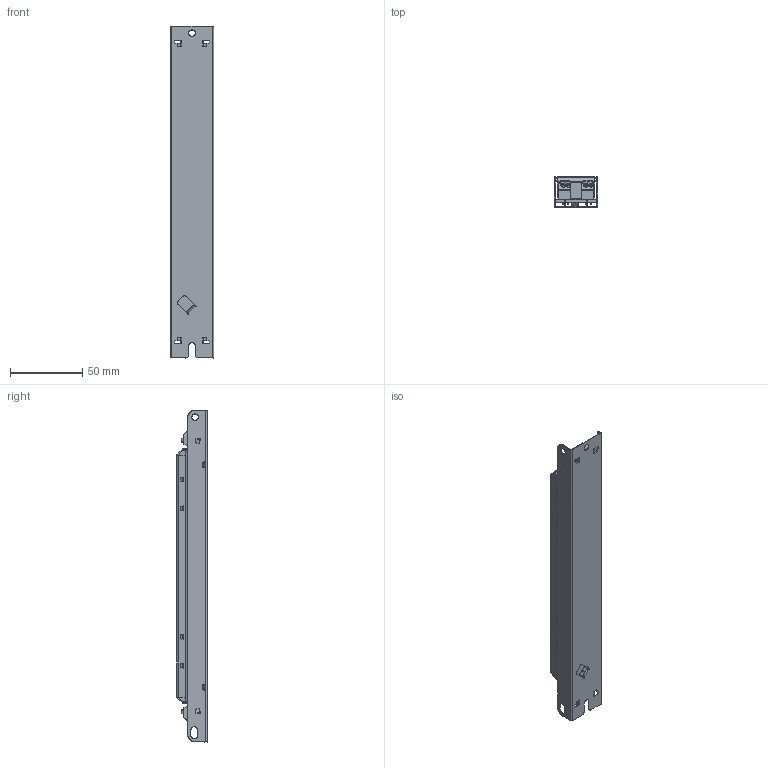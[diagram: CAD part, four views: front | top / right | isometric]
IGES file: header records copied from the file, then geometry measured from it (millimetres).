
Start section: SolidWorks IGES file using analytic representation for surfaces
Global section: file name: C:\Users\vuorinen_kari\Desktop\prj\LL1x10_42_CC_350_700\LL1x10-42-CC-350-700.IGS; native system: SolidWorks 2014; preprocessor: SolidWorks 2014; author: vuorinen_kari; date: 171205.100857; units: millimetre
Bounding box: 30 x 20.88 x 230 mm (x, y, z)
Surface area: 59887.3 mm2 (no closed solid volume)
Topology: 0 solids, 0 shells, 1100 faces, 8119 edges, 8107 vertices
Faces by surface type: bspline 718, revolution 382
